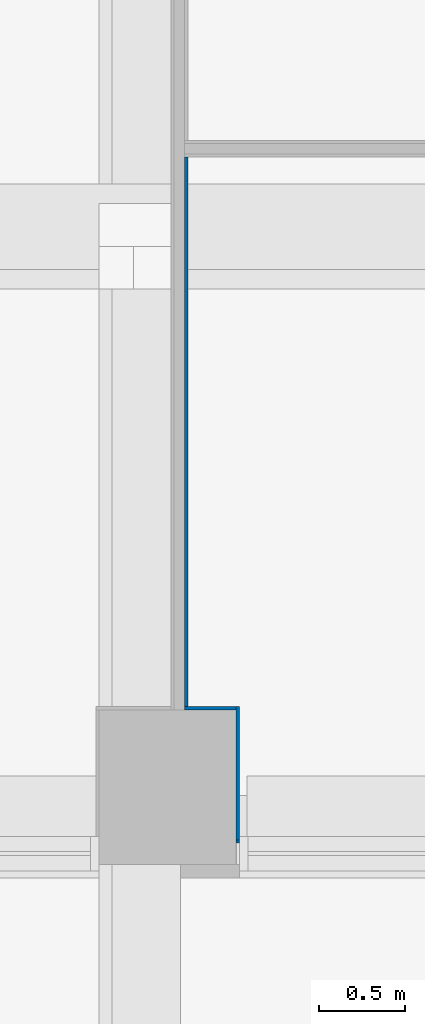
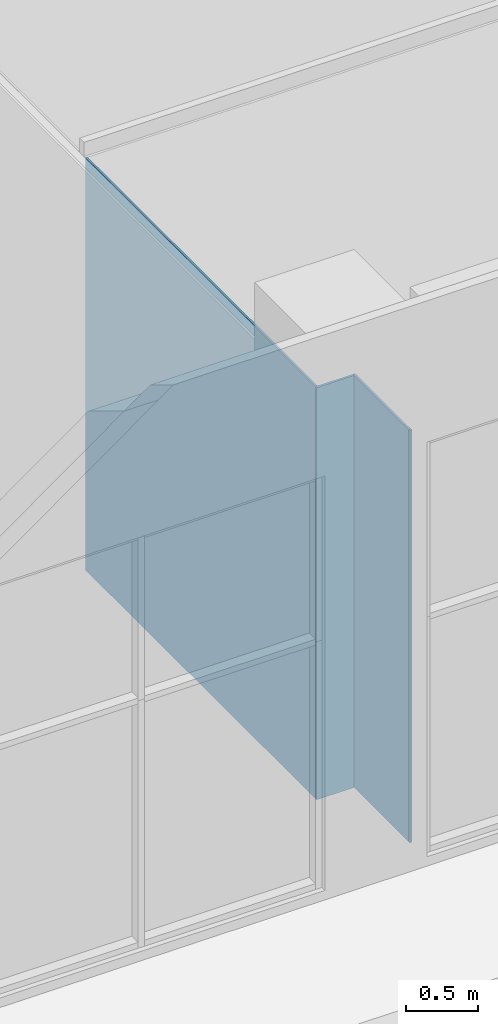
# One storey, part 35 of 100: 4 walls.
"""IFC2X3 building model written with IfcOpenShell, lengths in millimetres."""

from ifc_helpers import new_model, entity, si_unit, converted_unit, derived_unit, direction, frame, frame_2d, origin, origin_2d_with_axis, place, context, subcontext, project, spatial, rectangle, extrude, material, layer, layer_set, layer_usage, type_object, element, save


model = new_model("IFC2X3")

# Units and contexts
model_context = context("Model", 3, precision=0.01, world=origin(), true_north=direction((6.123031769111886e-17, 1.0)))
body_context = subcontext(model_context, "Body", "Model", "MODEL_VIEW")
ifc_project = project(units=[si_unit("LENGTHUNIT", "METRE", prefix="MILLI"), si_unit("AREAUNIT", "SQUARE_METRE"), si_unit("VOLUMEUNIT", "CUBIC_METRE"), converted_unit("PLANEANGLEUNIT", "DEGREE", entity("IfcRatioMeasure", 0.017453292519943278), si_unit("PLANEANGLEUNIT", "RADIAN"), dimensions=[0, 0, 0, 0, 0, 0, 0]), si_unit("MASSUNIT", "GRAM", prefix="KILO"), derived_unit("MASSDENSITYUNIT", [(si_unit("MASSUNIT", "GRAM", prefix="KILO"), 1), (si_unit("LENGTHUNIT", "METRE"), -3)]), derived_unit("MOMENTOFINERTIAUNIT", [(si_unit("LENGTHUNIT", "METRE"), 4)]), si_unit("TIMEUNIT", "SECOND"), si_unit("FREQUENCYUNIT", "HERTZ"), si_unit("THERMODYNAMICTEMPERATUREUNIT", "DEGREE_CELSIUS"), derived_unit("THERMALTRANSMITTANCEUNIT", [(si_unit("MASSUNIT", "GRAM", prefix="KILO"), 1), (si_unit("THERMODYNAMICTEMPERATUREUNIT", "KELVIN"), -1), (si_unit("TIMEUNIT", "SECOND"), -3)]), derived_unit("VOLUMETRICFLOWRATEUNIT", [(si_unit("LENGTHUNIT", "METRE"), 3), (si_unit("TIMEUNIT", "SECOND"), -1)]), derived_unit("MASSFLOWRATEUNIT", [(si_unit("MASSUNIT", "GRAM", prefix="KILO"), 1), (si_unit("TIMEUNIT", "SECOND"), -1)]), derived_unit("ROTATIONALFREQUENCYUNIT", [(si_unit("TIMEUNIT", "SECOND"), -1)]), si_unit("ELECTRICCURRENTUNIT", "AMPERE"), si_unit("ELECTRICVOLTAGEUNIT", "VOLT"), si_unit("POWERUNIT", "WATT"), si_unit("FORCEUNIT", "NEWTON", prefix="KILO"), si_unit("ILLUMINANCEUNIT", "LUX"), si_unit("LUMINOUSFLUXUNIT", "LUMEN"), si_unit("LUMINOUSINTENSITYUNIT", "CANDELA"), derived_unit("USERDEFINED", [(si_unit("MASSUNIT", "GRAM", prefix="KILO"), -1), (si_unit("LENGTHUNIT", "METRE"), -2), (si_unit("TIMEUNIT", "SECOND"), 3), (si_unit("LUMINOUSFLUXUNIT", "LUMEN"), 1)]), derived_unit("SOUNDPOWERUNIT", [(si_unit("MASSUNIT", "GRAM", prefix="KILO"), 1), (si_unit("LENGTHUNIT", "METRE"), 2), (si_unit("TIMEUNIT", "SECOND"), -3)]), derived_unit("SOUNDPRESSUREUNIT", [(si_unit("MASSUNIT", "GRAM", prefix="KILO"), 1), (si_unit("LENGTHUNIT", "METRE"), -1), (si_unit("TIMEUNIT", "SECOND"), -2)]), derived_unit("LINEARVELOCITYUNIT", [(si_unit("LENGTHUNIT", "METRE"), 1), (si_unit("TIMEUNIT", "SECOND"), -1)]), si_unit("PRESSUREUNIT", "PASCAL"), derived_unit("USERDEFINED", [(si_unit("LENGTHUNIT", "METRE"), -2), (si_unit("MASSUNIT", "GRAM", prefix="KILO"), 1), (si_unit("TIMEUNIT", "SECOND"), -2)]), derived_unit("LINEARFORCEUNIT", [(si_unit("MASSUNIT", "GRAM", prefix="KILO"), 1), (si_unit("LENGTHUNIT", "METRE"), 1), (si_unit("TIMEUNIT", "SECOND"), -2), (si_unit("LENGTHUNIT", "METRE"), -1)]), derived_unit("PLANARFORCEUNIT", [(si_unit("MASSUNIT", "GRAM", prefix="KILO"), 1), (si_unit("LENGTHUNIT", "METRE"), 1), (si_unit("TIMEUNIT", "SECOND"), -2), (si_unit("LENGTHUNIT", "METRE"), -2)])], contexts=[model_context])

# Site, building, storey
site_placement = place(None, frame((-14167.972527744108, -657.2125860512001, 0.0)))
site = spatial("IfcSite", under=ifc_project, at=site_placement, Name="Default", CompositionType="ELEMENT")
building_placement = place(site_placement, origin())
building = spatial("IfcBuilding", under=site, at=building_placement, Name="Sample Building", CompositionType="ELEMENT")
storey_placement = place(building_placement, origin())
storey = spatial("IfcBuildingStorey", under=building, at=storey_placement, Name="지상 1층", CompositionType="ELEMENT", Elevation=0.0)

# Walls
ifc_material_1 = material(Name="WA611-수성페인트 (내부) 벽 (3회)")
ifc_layer_1 = layer(ifc_material_1, 1.0)
ifc_material_2 = material(Name="WA551-시멘트모르타르 (내부) 벽 18mm")
ifc_layer_2 = layer(ifc_material_2, 16.0)
ifc_material_3 = material(Name="WA555-콘크리트면정리 벽 (내부)")
ifc_layer_3 = layer(ifc_material_3, 1.0)
ifc_layer_set = layer_set([ifc_layer_1, ifc_layer_2, ifc_layer_3], Name="기본 벽:A1-32-06A-콘크리트면정리, 시멘트모르타르(미장용), 수성페인트(내부) (18mm)")
ifc_layer_usage_1 = layer_usage(ifc_layer_set, "AXIS2", "POSITIVE", -9.000000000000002)
wall_type = type_object("IfcWallType", Name="기본 벽:A1-32-06A-콘크리트면정리, 시멘트모르타르(미장용), 수성페인트(내부) (18mm)", PredefinedType="STANDARD", material=ifc_layer_set)
wall_1_placement = place(storey_placement, frame((41585.972491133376, 691.2122951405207, 80.0), z_axis=(0.0, 0.0, 1.0), x_axis=(-1.0, 0.0, 0.0)))
element("IfcWallStandardCase", 1, at=wall_1_placement, inside=storey, type_object=wall_type, material=ifc_layer_usage_1, Name="기본 벽:A1-32-06A-콘크리트면정리, 시멘트모르타르(미장용), 수성페인트(내부) (18mm)", ObjectType="기본 벽:A1-32-06A-콘크리트면정리, 시멘트모르타르(미장용), 수성페인트(내부) (18mm)", context=body_context, shape_type="SweptSolid", body=[
    extrude(rectangle(XDim=17.999999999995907, YDim=17.999999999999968, at=origin_2d_with_axis()), frame((9.0, 0.0, 0.0), z_axis=(0.0, 0.0, 1.0), x_axis=(-1.0, 0.0, 0.0)), (0.0, 0.0, 1.0), 3500.0000000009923),
])
ifc_layer_usage_2 = layer_usage(ifc_layer_set, "AXIS2", "POSITIVE", -9.000000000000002)
wall_2_placement = place(storey_placement, frame((41576.972491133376, 700.2122951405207, 80.0), z_axis=(0.0, 0.0, 1.0), x_axis=(0.0, 1.0, 0.0)))
element("IfcWallStandardCase", 2, at=wall_2_placement, inside=storey, type_object=wall_type, material=ifc_layer_usage_2, Name="기본 벽:A1-32-06A-콘크리트면정리, 시멘트모르타르(미장용), 수성페인트(내부) (18mm)", ObjectType="기본 벽:A1-32-06A-콘크리트면정리, 시멘트모르타르(미장용), 수성페인트(내부) (18mm)", context=body_context, shape_type="SweptSolid", body=[
    extrude(rectangle(XDim=774.999590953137, YDim=17.999999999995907, at=frame_2d((387.4997954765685, 0.0), x_axis=(-1.0, 0.0))), origin(), (0.0, 0.0, 1.0), 3500.0000000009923),
])
ifc_layer_usage_3 = layer_usage(ifc_layer_set, "AXIS2", "POSITIVE", -9.000000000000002)
wall_3_placement = place(storey_placement, frame((41567.97249113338, 1466.211886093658, 80.0), z_axis=(0.0, 0.0, 1.0), x_axis=(-1.0, 0.0, 0.0)))
element("IfcWallStandardCase", 3, at=wall_3_placement, inside=storey, type_object=wall_type, material=ifc_layer_usage_3, Name="기본 벽:A1-32-06A-콘크리트면정리, 시멘트모르타르(미장용), 수성페인트(내부) (18mm)", ObjectType="기본 벽:A1-32-06A-콘크리트면정리, 시멘트모르타르(미장용), 수성페인트(내부) (18mm)", context=body_context, shape_type="SweptSolid", body=[
    extrude(rectangle(XDim=300.0000000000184, YDim=17.999999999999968, at=frame_2d((150.0000000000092, 1.3589129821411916e-13), x_axis=(-1.0, 0.0))), origin(), (0.0, 0.0, 1.0), 3500.0000000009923),
])
ifc_layer_usage_4 = layer_usage(ifc_layer_set, "AXIS2", "POSITIVE", -9.000000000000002)
wall_4_placement = place(storey_placement, frame((41276.97249113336, 1475.211886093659, 80.0), z_axis=(0.0, 0.0, 1.0), x_axis=(0.0, 1.0, 0.0)))
element("IfcWallStandardCase", 4, at=wall_4_placement, inside=storey, type_object=wall_type, material=ifc_layer_usage_4, Name="기본 벽:A1-32-06A-콘크리트면정리, 시멘트모르타르(미장용), 수성페인트(내부) (18mm)", ObjectType="기본 벽:A1-32-06A-콘크리트면정리, 시멘트모르타르(미장용), 수성페인트(내부) (18mm)", context=body_context, shape_type="SweptSolid", body=[
    extrude(rectangle(XDim=3201.4657311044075, YDim=17.999999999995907, at=frame_2d((1600.732865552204, 1.4210854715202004e-14), x_axis=(-1.0, 0.0))), origin(), (0.0, 0.0, 1.0), 3500.0000000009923),
])

save(model, "model.ifc")
